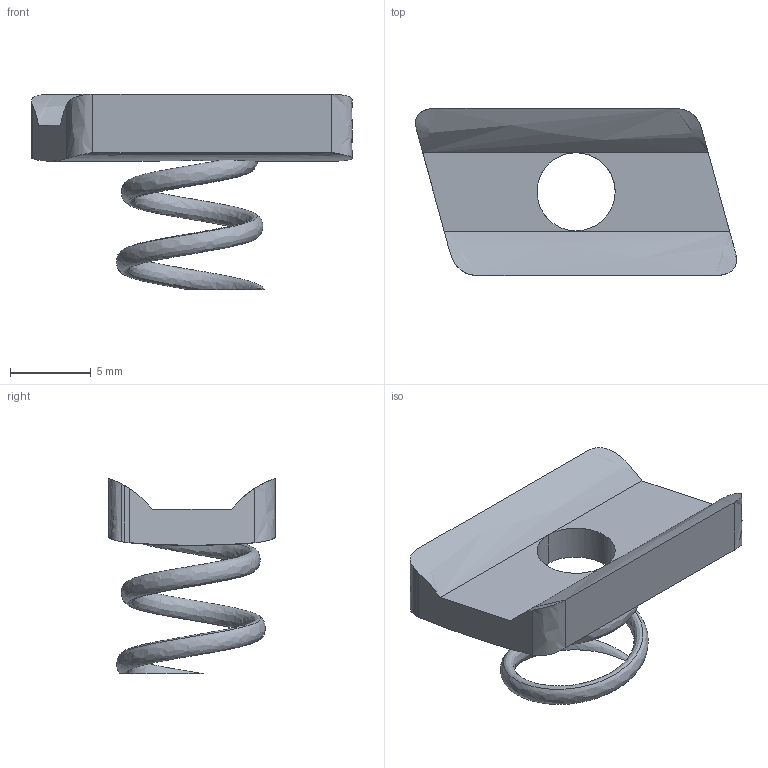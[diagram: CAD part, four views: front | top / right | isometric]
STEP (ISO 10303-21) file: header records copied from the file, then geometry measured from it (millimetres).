
FILE_DESCRIPTION(('TurboCAD Mac Pro'),'Build 980');
FILE_NAME('P7006-1024.stp',' ',(''),(''),'ACIS Interop','IMSI','TurboCAD Mac Pro BY IMSI, INCORPORATED');
FILE_SCHEMA(('automotive_design'));
Length unit declared in the file: inch
Products named in the file (1): 1
Bounding box: 19.82 x 10.31 x 12.07 mm (x, y, z)
Volume: 490.3 mm3; surface area: 721.3 mm2
Topology: 1 solids, 1 shells, 27 faces, 77 edges, 51 vertices
Faces by surface type: bspline 15, plane 12
Entity records: 3065 total; most frequent: CARTESIAN_POINT 2251, ORIENTED_EDGE 154, EDGE_CURVE 77, DIRECTION 57, VERTEX_POINT 51, B_SPLINE_CURVE_WITH_KNOTS 46, LINE 31, VECTOR 31
